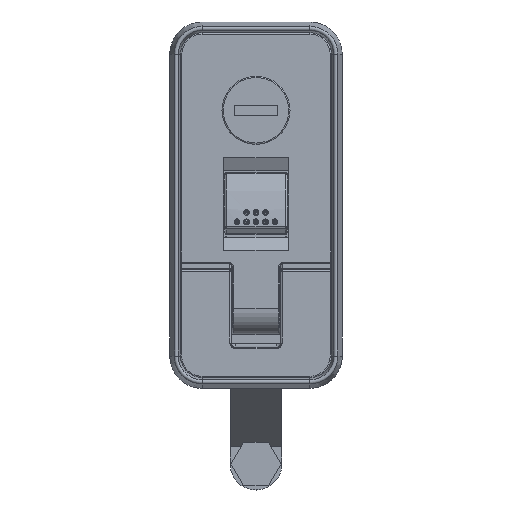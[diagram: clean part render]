
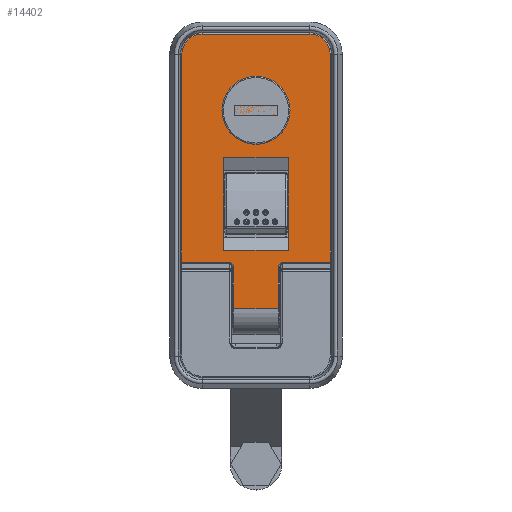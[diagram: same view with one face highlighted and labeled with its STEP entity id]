
A CAD part, top view. The second image highlights one B-rep face of the part: STEP entity #14402.
In plain terms, the highlighted planar face has unit normal (0, 0, 1) as drawn and (0, 0, -1) by its records, which use the part's own axes.
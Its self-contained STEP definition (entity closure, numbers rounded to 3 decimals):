
#163 = ORIENTED_EDGE ( 'NONE', *, *, #47277, .T. ) ;
#219 = ORIENTED_EDGE ( 'NONE', *, *, #11730, .T. ) ;
#371 = VERTEX_POINT ( 'NONE', #44632 ) ;
#1742 = ORIENTED_EDGE ( 'NONE', *, *, #52270, .T. ) ;
#2420 = CARTESIAN_POINT ( 'NONE',  ( 11., 7.5, 0. ) ) ;
#2487 = EDGE_CURVE ( 'NONE', #52393, #17328, #24579, .T. ) ;
#2682 = DIRECTION ( 'NONE',  ( 0., -1., 0. ) ) ;
#2835 = CARTESIAN_POINT ( 'NONE',  ( -24., 5.2, 0. ) ) ;
#3041 = CARTESIAN_POINT ( 'NONE',  ( -14.5, -5.2, 0. ) ) ;
#3409 = PLANE ( 'NONE',  #19554 ) ;
#3434 = LINE ( 'NONE', #34614, #21335 ) ;
#3571 = VERTEX_POINT ( 'NONE', #26138 ) ;
#3617 = CARTESIAN_POINT ( 'NONE',  ( -14.5, -6.5, 0. ) ) ;
#4564 = CARTESIAN_POINT ( 'NONE',  ( -13.2, -17.2, 0. ) ) ;
#5219 = EDGE_CURVE ( 'NONE', #3571, #371, #42818, .T. ) ;
#5997 = EDGE_CURVE ( 'NONE', #9533, #14933, #28052, .T. ) ;
#6405 = DIRECTION ( 'NONE',  ( -1., 0., 0. ) ) ;
#6951 = CARTESIAN_POINT ( 'NONE',  ( 39.7, 12.5, 0. ) ) ;
#7014 = CARTESIAN_POINT ( 'NONE',  ( -10.5, 7.5, 0. ) ) ;
#7167 = VECTOR ( 'NONE', #36091, 1000. ) ;
#8718 = CARTESIAN_POINT ( 'NONE',  ( 39.7, -12.5, 0. ) ) ;
#9241 = CARTESIAN_POINT ( 'NONE',  ( -24., -5.2, 0. ) ) ;
#9533 = VERTEX_POINT ( 'NONE', #32273 ) ;
#9999 = VERTEX_POINT ( 'NONE', #7014 ) ;
#10854 = ORIENTED_EDGE ( 'NONE', *, *, #12850, .T. ) ;
#10907 = ORIENTED_EDGE ( 'NONE', *, *, #33679, .T. ) ;
#11259 = LINE ( 'NONE', #55291, #32673 ) ;
#11330 = CARTESIAN_POINT ( 'NONE',  ( 35., -12.5, 0. ) ) ;
#11622 = DIRECTION ( 'NONE',  ( 1., 0., 0. ) ) ;
#11730 = EDGE_CURVE ( 'NONE', #24390, #52393, #55659, .T. ) ;
#11980 = FACE_BOUND ( 'NONE', #14570, .T. ) ;
#12190 = DIRECTION ( 'NONE',  ( 0., 0., -1. ) ) ;
#12288 = DIRECTION ( 'NONE',  ( -1., 0., 0. ) ) ;
#12850 = EDGE_CURVE ( 'NONE', #45513, #24390, #3434, .T. ) ;
#12964 = EDGE_CURVE ( 'NONE', #38816, #31591, #23401, .T. ) ;
#14354 = VERTEX_POINT ( 'NONE', #52238 ) ;
#14402 = ADVANCED_FACE ( 'NONE', ( #16003, #11980 ), #3409, .F. ) ;
#14542 = DIRECTION ( 'NONE',  ( -1., 0., 0. ) ) ;
#14570 = EDGE_LOOP ( 'NONE', ( #20364, #25424, #30594, #10907 ) ) ;
#14933 = VERTEX_POINT ( 'NONE', #45888 ) ;
#15228 = ORIENTED_EDGE ( 'NONE', *, *, #21019, .T. ) ;
#16003 = FACE_OUTER_BOUND ( 'NONE', #39362, .T. ) ;
#16153 = DIRECTION ( 'NONE',  ( 0., 1., 0. ) ) ;
#16207 = AXIS2_PLACEMENT_3D ( 'NONE', #52240, #38288, #30243 ) ;
#17162 = CARTESIAN_POINT ( 'NONE',  ( -14.5, 6.5, 0. ) ) ;
#17328 = VERTEX_POINT ( 'NONE', #18794 ) ;
#17330 = ORIENTED_EDGE ( 'NONE', *, *, #46796, .T. ) ;
#18794 = CARTESIAN_POINT ( 'NONE',  ( -14.5, 5.2, 0. ) ) ;
#19473 = VECTOR ( 'NONE', #14542, 1000. ) ;
#19554 = AXIS2_PLACEMENT_3D ( 'NONE', #21163, #42871, #25157 ) ;
#19592 = LINE ( 'NONE', #37037, #23277 ) ;
#19882 = LINE ( 'NONE', #2420, #49200 ) ;
#20364 = ORIENTED_EDGE ( 'NONE', *, *, #5997, .T. ) ;
#21019 = EDGE_CURVE ( 'NONE', #25965, #3571, #36769, .T. ) ;
#21163 = CARTESIAN_POINT ( 'NONE',  ( 0., 0., 0. ) ) ;
#21335 = VECTOR ( 'NONE', #12288, 1000. ) ;
#21708 = CARTESIAN_POINT ( 'NONE',  ( -10.5, 7.5, 0. ) ) ;
#22127 = CARTESIAN_POINT ( 'NONE',  ( -13.2, -6.5, 0. ) ) ;
#22933 = ORIENTED_EDGE ( 'NONE', *, *, #12964, .T. ) ;
#23277 = VECTOR ( 'NONE', #54427, 1000. ) ;
#23401 = LINE ( 'NONE', #53125, #19473 ) ;
#24390 = VERTEX_POINT ( 'NONE', #9241 ) ;
#24579 = LINE ( 'NONE', #2835, #55977 ) ;
#25072 = DIRECTION ( 'NONE',  ( 0., 0., 1. ) ) ;
#25157 = DIRECTION ( 'NONE',  ( 1., 0., 0. ) ) ;
#25356 = CIRCLE ( 'NONE', #16207, 4.7 ) ;
#25424 = ORIENTED_EDGE ( 'NONE', *, *, #36543, .T. ) ;
#25945 = ORIENTED_EDGE ( 'NONE', *, *, #31937, .T. ) ;
#25965 = VERTEX_POINT ( 'NONE', #37212 ) ;
#26030 = AXIS2_PLACEMENT_3D ( 'NONE', #3617, #25072, #29340 ) ;
#26138 = CARTESIAN_POINT ( 'NONE',  ( -13.2, 17.2, 0. ) ) ;
#26549 = DIRECTION ( 'NONE',  ( 0., -1., 0. ) ) ;
#27031 = EDGE_CURVE ( 'NONE', #34966, #9999, #19882, .T. ) ;
#28052 = LINE ( 'NONE', #50342, #7167 ) ;
#29340 = DIRECTION ( 'NONE',  ( 1., 0., 0. ) ) ;
#30243 = DIRECTION ( 'NONE',  ( 0., 1., 0. ) ) ;
#30594 = ORIENTED_EDGE ( 'NONE', *, *, #27031, .T. ) ;
#30762 = VECTOR ( 'NONE', #26549, 1000. ) ;
#31591 = VERTEX_POINT ( 'NONE', #4564 ) ;
#31937 = EDGE_CURVE ( 'NONE', #371, #14354, #25356, .T. ) ;
#32273 = CARTESIAN_POINT ( 'NONE',  ( -10.5, -7.5, 0. ) ) ;
#32427 = ORIENTED_EDGE ( 'NONE', *, *, #2487, .T. ) ;
#32469 = AXIS2_PLACEMENT_3D ( 'NONE', #17162, #56562, #51153 ) ;
#32673 = VECTOR ( 'NONE', #16153, 1000. ) ;
#32762 = DIRECTION ( 'NONE',  ( 0., 1., 0. ) ) ;
#33403 = DIRECTION ( 'NONE',  ( 0., 1., 0. ) ) ;
#33678 = CARTESIAN_POINT ( 'NONE',  ( -13.2, 17.2, 0. ) ) ;
#33679 = EDGE_CURVE ( 'NONE', #9999, #9533, #52826, .T. ) ;
#33889 = EDGE_CURVE ( 'NONE', #51222, #38816, #53649, .T. ) ;
#34427 = CARTESIAN_POINT ( 'NONE',  ( -24., 5.2, 0. ) ) ;
#34614 = CARTESIAN_POINT ( 'NONE',  ( -14.5, -5.2, 0. ) ) ;
#34774 = ORIENTED_EDGE ( 'NONE', *, *, #5219, .T. ) ;
#34966 = VERTEX_POINT ( 'NONE', #44760 ) ;
#35208 = CIRCLE ( 'NONE', #32469, 1.3 ) ;
#36091 = DIRECTION ( 'NONE',  ( 1., 0., 0. ) ) ;
#36543 = EDGE_CURVE ( 'NONE', #14933, #34966, #11259, .T. ) ;
#36769 = LINE ( 'NONE', #54448, #43035 ) ;
#36921 = VECTOR ( 'NONE', #2682, 1000. ) ;
#37037 = CARTESIAN_POINT ( 'NONE',  ( -13.2, -17.2, 0. ) ) ;
#37212 = CARTESIAN_POINT ( 'NONE',  ( -13.2, 6.5, 0. ) ) ;
#38288 = DIRECTION ( 'NONE',  ( 0., 0., -1. ) ) ;
#38816 = VERTEX_POINT ( 'NONE', #51714 ) ;
#39362 = EDGE_LOOP ( 'NONE', ( #219, #32427, #163, #15228, #34774, #25945, #1742, #44173, #22933, #17330, #55472, #10854 ) ) ;
#42818 = LINE ( 'NONE', #33678, #52799 ) ;
#42871 = DIRECTION ( 'NONE',  ( 0., 0., 1. ) ) ;
#43021 = VECTOR ( 'NONE', #33403, 1000. ) ;
#43035 = VECTOR ( 'NONE', #32762, 1000. ) ;
#44173 = ORIENTED_EDGE ( 'NONE', *, *, #33889, .T. ) ;
#44632 = CARTESIAN_POINT ( 'NONE',  ( 35., 17.2, 0. ) ) ;
#44760 = CARTESIAN_POINT ( 'NONE',  ( 11., 7.5, 0. ) ) ;
#45144 = CIRCLE ( 'NONE', #26030, 1.3 ) ;
#45473 = EDGE_CURVE ( 'NONE', #47054, #45513, #45144, .T. ) ;
#45513 = VERTEX_POINT ( 'NONE', #3041 ) ;
#45888 = CARTESIAN_POINT ( 'NONE',  ( 11., -7.5, 0. ) ) ;
#46263 = AXIS2_PLACEMENT_3D ( 'NONE', #11330, #12190, #11622 ) ;
#46796 = EDGE_CURVE ( 'NONE', #31591, #47054, #19592, .T. ) ;
#47054 = VERTEX_POINT ( 'NONE', #22127 ) ;
#47277 = EDGE_CURVE ( 'NONE', #17328, #25965, #35208, .T. ) ;
#49200 = VECTOR ( 'NONE', #6405, 1000. ) ;
#49851 = LINE ( 'NONE', #6951, #36921 ) ;
#50342 = CARTESIAN_POINT ( 'NONE',  ( -10.5, -7.5, 0. ) ) ;
#51153 = DIRECTION ( 'NONE',  ( 0., -1., 0. ) ) ;
#51222 = VERTEX_POINT ( 'NONE', #8718 ) ;
#51376 = CARTESIAN_POINT ( 'NONE',  ( -24., -5.2, 0. ) ) ;
#51633 = DIRECTION ( 'NONE',  ( 1., 0., 0. ) ) ;
#51714 = CARTESIAN_POINT ( 'NONE',  ( 35., -17.2, 0. ) ) ;
#52238 = CARTESIAN_POINT ( 'NONE',  ( 39.7, 12.5, 0. ) ) ;
#52240 = CARTESIAN_POINT ( 'NONE',  ( 35., 12.5, 0. ) ) ;
#52270 = EDGE_CURVE ( 'NONE', #14354, #51222, #49851, .T. ) ;
#52393 = VERTEX_POINT ( 'NONE', #34427 ) ;
#52799 = VECTOR ( 'NONE', #55654, 1000. ) ;
#52826 = LINE ( 'NONE', #21708, #30762 ) ;
#53125 = CARTESIAN_POINT ( 'NONE',  ( 35., -17.2, 0. ) ) ;
#53649 = CIRCLE ( 'NONE', #46263, 4.7 ) ;
#54427 = DIRECTION ( 'NONE',  ( 0., 1., 0. ) ) ;
#54448 = CARTESIAN_POINT ( 'NONE',  ( -13.2, 6.5, 0. ) ) ;
#55291 = CARTESIAN_POINT ( 'NONE',  ( 11., -7.5, 0. ) ) ;
#55472 = ORIENTED_EDGE ( 'NONE', *, *, #45473, .T. ) ;
#55654 = DIRECTION ( 'NONE',  ( 1., 0., 0. ) ) ;
#55659 = LINE ( 'NONE', #51376, #43021 ) ;
#55977 = VECTOR ( 'NONE', #51633, 1000. ) ;
#56562 = DIRECTION ( 'NONE',  ( 0., 0., 1. ) ) ;
